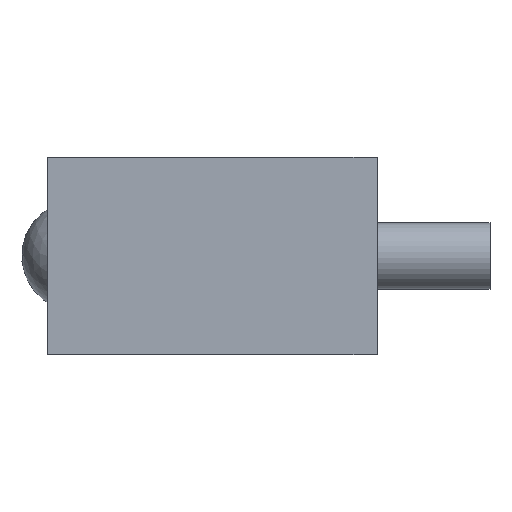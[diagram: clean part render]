
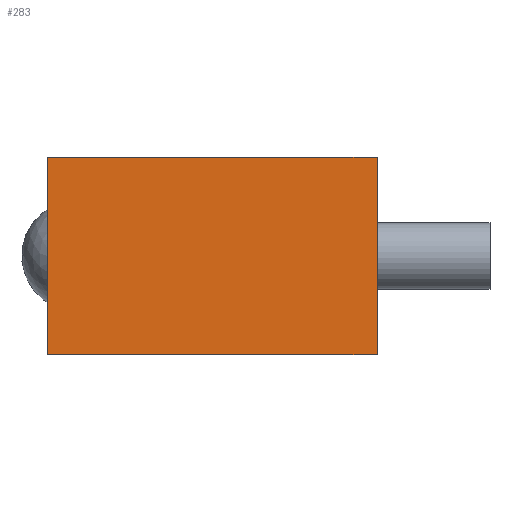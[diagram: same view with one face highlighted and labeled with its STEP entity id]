
A CAD part, left-side view. The second image highlights one B-rep face of the part: STEP entity #283.
In plain terms, the highlighted planar face has unit normal (-1, 0, 0).
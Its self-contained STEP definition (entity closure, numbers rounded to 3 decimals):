
#21=LINE('',#457,#37);
#27=LINE('',#472,#43);
#31=LINE('',#484,#47);
#33=LINE('',#487,#49);
#37=VECTOR('',#384,10.);
#43=VECTOR('',#394,10.);
#47=VECTOR('',#410,10.);
#49=VECTOR('',#414,10.);
#70=PLANE('',#335);
#88=FACE_OUTER_BOUND('',#114,.T.);
#114=EDGE_LOOP('',(#231,#232,#233,#234));
#142=VERTEX_POINT('',#455);
#143=VERTEX_POINT('',#456);
#149=VERTEX_POINT('',#469);
#150=VERTEX_POINT('',#471);
#166=EDGE_CURVE('',#142,#143,#21,.T.);
#173=EDGE_CURVE('',#149,#150,#27,.T.);
#179=EDGE_CURVE('',#150,#142,#31,.T.);
#181=EDGE_CURVE('',#143,#149,#33,.T.);
#231=ORIENTED_EDGE('',*,*,#173,.F.);
#232=ORIENTED_EDGE('',*,*,#181,.F.);
#233=ORIENTED_EDGE('',*,*,#166,.F.);
#234=ORIENTED_EDGE('',*,*,#179,.F.);
#283=ADVANCED_FACE('',(#88),#70,.T.);
#335=AXIS2_PLACEMENT_3D('',#486,#412,#413);
#384=DIRECTION('',(0.,0.,1.));
#394=DIRECTION('',(0.,0.,-1.));
#410=DIRECTION('',(0.,1.,0.));
#412=DIRECTION('center_axis',(-1.,0.,0.));
#413=DIRECTION('ref_axis',(0.,-1.,0.));
#414=DIRECTION('',(0.,-1.,0.));
#455=CARTESIAN_POINT('',(-50.,14.9,-8.9));
#456=CARTESIAN_POINT('',(-50.,14.9,8.9));
#457=CARTESIAN_POINT('',(-50.,14.9,0.));
#469=CARTESIAN_POINT('',(-50.,-14.9,8.9));
#471=CARTESIAN_POINT('',(-50.,-14.9,-8.9));
#472=CARTESIAN_POINT('',(-50.,-14.9,0.));
#484=CARTESIAN_POINT('',(-50.,14.9,-8.9));
#486=CARTESIAN_POINT('Origin',(-50.,14.9,0.));
#487=CARTESIAN_POINT('',(-50.,14.9,8.9));
